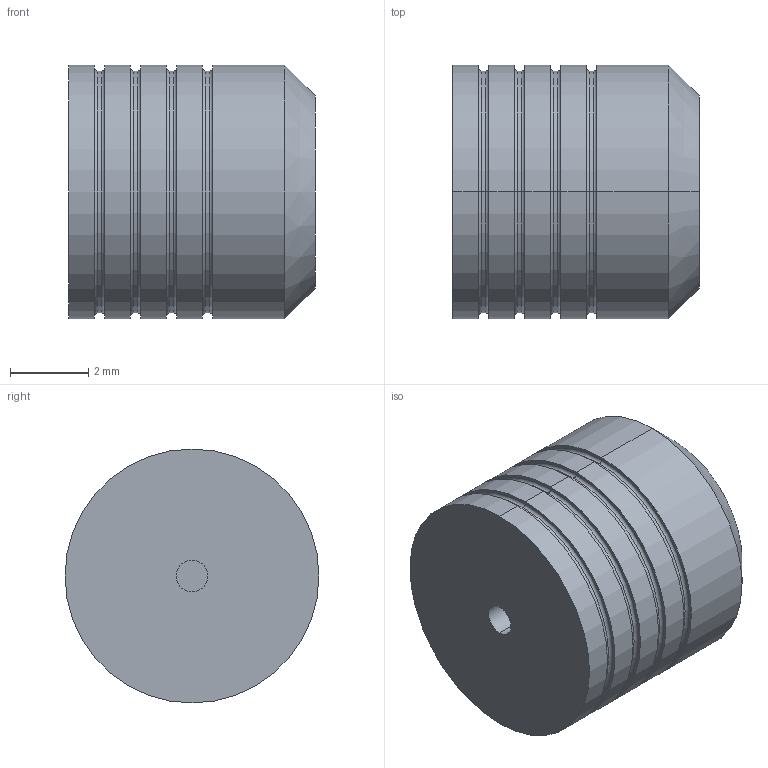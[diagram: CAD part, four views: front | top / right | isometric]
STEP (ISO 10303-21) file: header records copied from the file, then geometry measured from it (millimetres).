
FILE_DESCRIPTION (( 'STEP AP214' ), '1' );
FILE_NAME ('PLGM0650 _ _ 0A.STEP', '2020-02-19T18:06:43', ( 'tlc' ), ( 'Microsoft' ), 'SwSTEP 2.0', 'SolidWorks 2019', '' );
FILE_SCHEMA (( 'AUTOMOTIVE_DESIGN' ));
Length unit declared in the file: inch
Products named in the file (1): PLGM0650 _ _ 0A
Bounding box: 6.3 x 6.49 x 6.49 mm (x, y, z)
Volume: 197 mm3; surface area: 214.5 mm2
Topology: 1 solids, 1 shells, 49 faces, 96 edges, 58 vertices
Faces by surface type: cylinder 20, torus 16, plane 11, cone 2
Entity records: 1320 total; most frequent: DIRECTION 270, CARTESIAN_POINT 204, ORIENTED_EDGE 192, AXIS2_PLACEMENT_3D 124, EDGE_CURVE 96, CIRCLE 74, EDGE_LOOP 58, VERTEX_POINT 58
